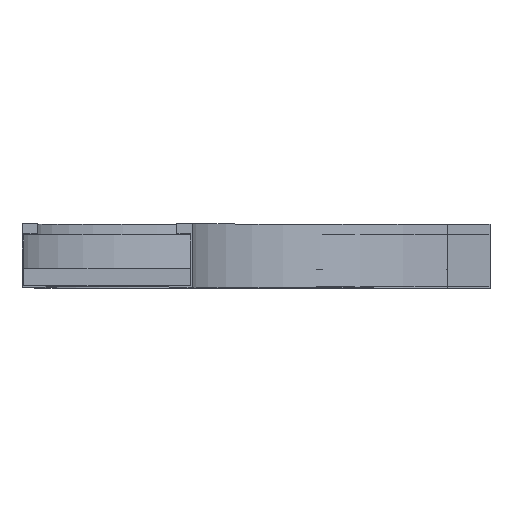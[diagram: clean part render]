
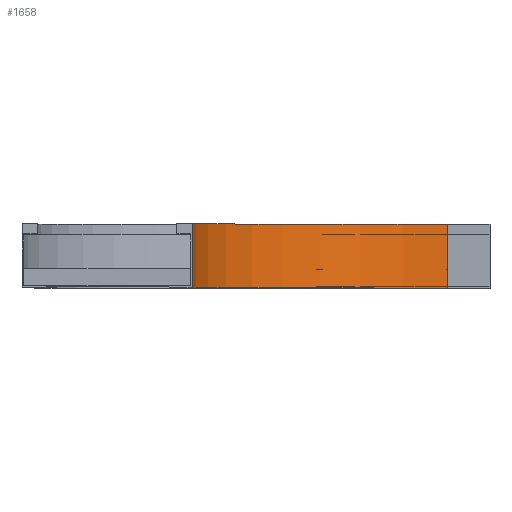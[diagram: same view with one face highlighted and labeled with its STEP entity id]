
A CAD part, top view. The second image highlights one B-rep face of the part: STEP entity #1658.
In plain terms, the highlighted cylindrical face has radius 300 mm (diameter 600 mm), a partial arc.
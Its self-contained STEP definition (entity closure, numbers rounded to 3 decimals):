
#130 = DIRECTION ( 'NONE',  ( 0., 1., 0. ) ) ;
#213 = VERTEX_POINT ( 'NONE', #443 ) ;
#224 = VERTEX_POINT ( 'NONE', #1846 ) ;
#281 = CARTESIAN_POINT ( 'NONE',  ( 0., 0., -50. ) ) ;
#299 = CARTESIAN_POINT ( 'NONE',  ( 0., 0., -50. ) ) ;
#326 = AXIS2_PLACEMENT_3D ( 'NONE', #988, #979, #851 ) ;
#443 = CARTESIAN_POINT ( 'NONE',  ( 300., 75., -350. ) ) ;
#529 = DIRECTION ( 'NONE',  ( 0., 1., 0. ) ) ;
#558 = CARTESIAN_POINT ( 'NONE',  ( 300., 0., -350. ) ) ;
#580 = CARTESIAN_POINT ( 'NONE',  ( 300., 0., -50. ) ) ;
#613 = CARTESIAN_POINT ( 'NONE',  ( 300., 75., -50. ) ) ;
#623 = EDGE_CURVE ( 'NONE', #856, #224, #1356, .T. ) ;
#730 = ORIENTED_EDGE ( 'NONE', *, *, #1595, .F. ) ;
#731 = CARTESIAN_POINT ( 'NONE',  ( 0., 75., -50. ) ) ;
#753 = DIRECTION ( 'NONE',  ( 0., -1., 0. ) ) ;
#851 = DIRECTION ( 'NONE',  ( -1., 0., 0. ) ) ;
#856 = VERTEX_POINT ( 'NONE', #299 ) ;
#868 = VERTEX_POINT ( 'NONE', #731 ) ;
#901 = DIRECTION ( 'NONE',  ( 0., 0., -1. ) ) ;
#979 = DIRECTION ( 'NONE',  ( 0., -1., 0. ) ) ;
#988 = CARTESIAN_POINT ( 'NONE',  ( 300., 0., -50. ) ) ;
#993 = AXIS2_PLACEMENT_3D ( 'NONE', #613, #753, #1730 ) ;
#1008 = LINE ( 'NONE', #281, #1225 ) ;
#1094 = ORIENTED_EDGE ( 'NONE', *, *, #623, .T. ) ;
#1171 = ORIENTED_EDGE ( 'NONE', *, *, #1545, .T. ) ;
#1217 = EDGE_LOOP ( 'NONE', ( #1626, #730, #1094, #1171 ) ) ;
#1225 = VECTOR ( 'NONE', #529, 1000. ) ;
#1287 = CIRCLE ( 'NONE', #993, 300. ) ;
#1327 = VECTOR ( 'NONE', #130, 1000. ) ;
#1356 = CIRCLE ( 'NONE', #326, 300. ) ;
#1471 = DIRECTION ( 'NONE',  ( 0., -1., 0. ) ) ;
#1545 = EDGE_CURVE ( 'NONE', #224, #213, #1704, .T. ) ;
#1595 = EDGE_CURVE ( 'NONE', #856, #868, #1008, .T. ) ;
#1614 = CYLINDRICAL_SURFACE ( 'NONE', #1714, 300. ) ;
#1626 = ORIENTED_EDGE ( 'NONE', *, *, #1646, .F. ) ;
#1646 = EDGE_CURVE ( 'NONE', #868, #213, #1287, .T. ) ;
#1658 = ADVANCED_FACE ( 'NONE', ( #1750 ), #1614, .F. ) ;
#1704 = LINE ( 'NONE', #558, #1327 ) ;
#1714 = AXIS2_PLACEMENT_3D ( 'NONE', #580, #1471, #901 ) ;
#1730 = DIRECTION ( 'NONE',  ( -1., 0., 0. ) ) ;
#1750 = FACE_OUTER_BOUND ( 'NONE', #1217, .T. ) ;
#1846 = CARTESIAN_POINT ( 'NONE',  ( 300., 0., -350. ) ) ;
